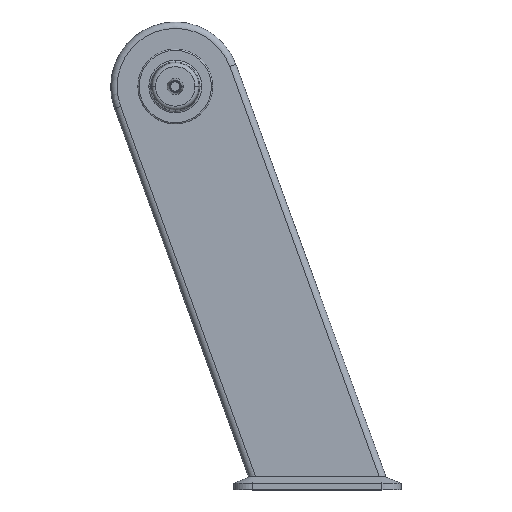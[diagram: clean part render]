
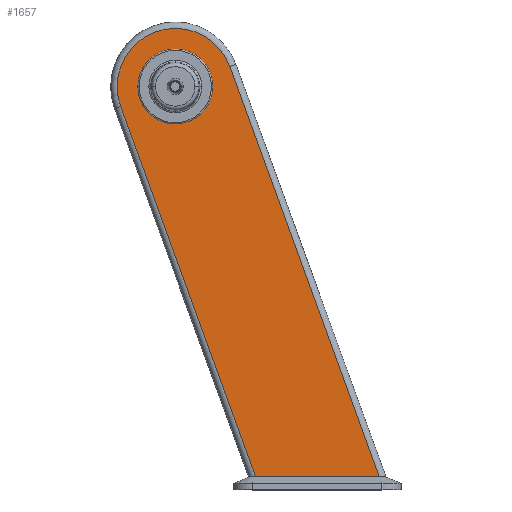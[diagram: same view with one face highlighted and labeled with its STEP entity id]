
A CAD part, top view. The second image highlights one B-rep face of the part: STEP entity #1657.
In plain terms, the highlighted planar face has unit normal (0, 0, 1).
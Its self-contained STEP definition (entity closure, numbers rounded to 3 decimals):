
#22 = PLANE ( 'NONE',  #198 ) ;
#118 = VECTOR ( 'NONE', #489, 1000. ) ;
#131 = LINE ( 'NONE', #1721, #1654 ) ;
#138 = EDGE_LOOP ( 'NONE', ( #2523, #1534 ) ) ;
#148 = CIRCLE ( 'NONE', #1172, 90. ) ;
#165 = CIRCLE ( 'NONE', #1305, 58. ) ;
#190 = CARTESIAN_POINT ( 'NONE',  ( 315.978, -605., 31.25 ) ) ;
#198 = AXIS2_PLACEMENT_3D ( 'NONE', #824, #1421, #222 ) ;
#222 = DIRECTION ( 'NONE',  ( 1., 0., 0. ) ) ;
#265 = CARTESIAN_POINT ( 'NONE',  ( 0., 0., 31.25 ) ) ;
#346 = DIRECTION ( 'NONE',  ( 0., 0., 1. ) ) ;
#429 = EDGE_CURVE ( 'NONE', #1640, #2458, #165, .T. ) ;
#472 = DIRECTION ( 'NONE',  ( 1., 0., 0. ) ) ;
#489 = DIRECTION ( 'NONE',  ( 0.342, -0.94, 0. ) ) ;
#573 = CARTESIAN_POINT ( 'NONE',  ( 84.572, 30.782, 31.25 ) ) ;
#611 = CARTESIAN_POINT ( 'NONE',  ( 0., 0., 31.25 ) ) ;
#621 = CARTESIAN_POINT ( 'NONE',  ( 58., 0., 31.25 ) ) ;
#653 = EDGE_CURVE ( 'NONE', #2123, #803, #131, .T. ) ;
#683 = LINE ( 'NONE', #573, #2200 ) ;
#687 = FACE_OUTER_BOUND ( 'NONE', #1516, .T. ) ;
#698 = CIRCLE ( 'NONE', #2566, 58. ) ;
#803 = VERTEX_POINT ( 'NONE', #190 ) ;
#805 = DIRECTION ( 'NONE',  ( 1., 0., 0. ) ) ;
#824 = CARTESIAN_POINT ( 'NONE',  ( 0., 0., 31.25 ) ) ;
#832 = EDGE_CURVE ( 'NONE', #2458, #1640, #698, .T. ) ;
#888 = ORIENTED_EDGE ( 'NONE', *, *, #1883, .T. ) ;
#977 = DIRECTION ( 'NONE',  ( -0.342, 0.94, 0. ) ) ;
#1025 = CARTESIAN_POINT ( 'NONE',  ( -58., 0., 31.25 ) ) ;
#1154 = FACE_BOUND ( 'NONE', #138, .T. ) ;
#1172 = AXIS2_PLACEMENT_3D ( 'NONE', #1533, #346, #1726 ) ;
#1184 = CARTESIAN_POINT ( 'NONE',  ( 124.426, -605., 31.25 ) ) ;
#1305 = AXIS2_PLACEMENT_3D ( 'NONE', #265, #1653, #472 ) ;
#1421 = DIRECTION ( 'NONE',  ( 0., 0., 1. ) ) ;
#1472 = ORIENTED_EDGE ( 'NONE', *, *, #2202, .T. ) ;
#1491 = CARTESIAN_POINT ( 'NONE',  ( 130.461, -621.58, 31.25 ) ) ;
#1516 = EDGE_LOOP ( 'NONE', ( #888, #1927, #2467, #1472 ) ) ;
#1533 = CARTESIAN_POINT ( 'NONE',  ( 0., 0., 31.25 ) ) ;
#1534 = ORIENTED_EDGE ( 'NONE', *, *, #832, .F. ) ;
#1640 = VERTEX_POINT ( 'NONE', #621 ) ;
#1653 = DIRECTION ( 'NONE',  ( 0., 0., 1. ) ) ;
#1654 = VECTOR ( 'NONE', #1917, 1000. ) ;
#1657 = ADVANCED_FACE ( 'NONE', ( #687, #1154 ), #22, .T. ) ;
#1701 = VERTEX_POINT ( 'NONE', #1825 ) ;
#1721 = CARTESIAN_POINT ( 'NONE',  ( 0., -605., 31.25 ) ) ;
#1726 = DIRECTION ( 'NONE',  ( 1., 0., 0. ) ) ;
#1825 = CARTESIAN_POINT ( 'NONE',  ( -84.572, -30.782, 31.25 ) ) ;
#1832 = CARTESIAN_POINT ( 'NONE',  ( 84.572, 30.782, 31.25 ) ) ;
#1883 = EDGE_CURVE ( 'NONE', #1701, #2123, #2229, .T. ) ;
#1917 = DIRECTION ( 'NONE',  ( 1., 0., 0. ) ) ;
#1927 = ORIENTED_EDGE ( 'NONE', *, *, #653, .T. ) ;
#1984 = DIRECTION ( 'NONE',  ( 0., 0., 1. ) ) ;
#2102 = EDGE_CURVE ( 'NONE', #803, #2484, #683, .T. ) ;
#2123 = VERTEX_POINT ( 'NONE', #1184 ) ;
#2200 = VECTOR ( 'NONE', #977, 1000. ) ;
#2202 = EDGE_CURVE ( 'NONE', #2484, #1701, #148, .T. ) ;
#2229 = LINE ( 'NONE', #1491, #118 ) ;
#2458 = VERTEX_POINT ( 'NONE', #1025 ) ;
#2467 = ORIENTED_EDGE ( 'NONE', *, *, #2102, .T. ) ;
#2484 = VERTEX_POINT ( 'NONE', #1832 ) ;
#2523 = ORIENTED_EDGE ( 'NONE', *, *, #429, .F. ) ;
#2566 = AXIS2_PLACEMENT_3D ( 'NONE', #611, #1984, #805 ) ;
